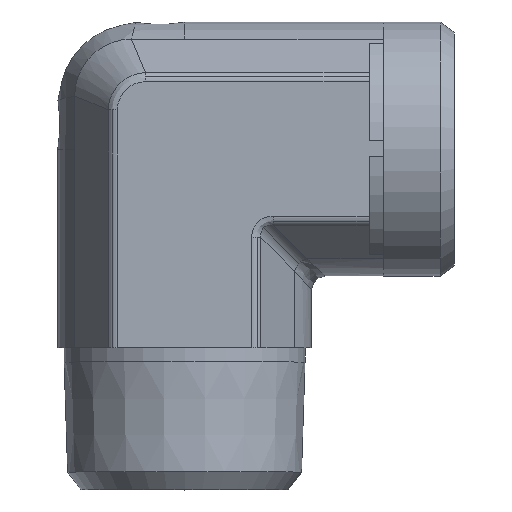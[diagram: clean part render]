
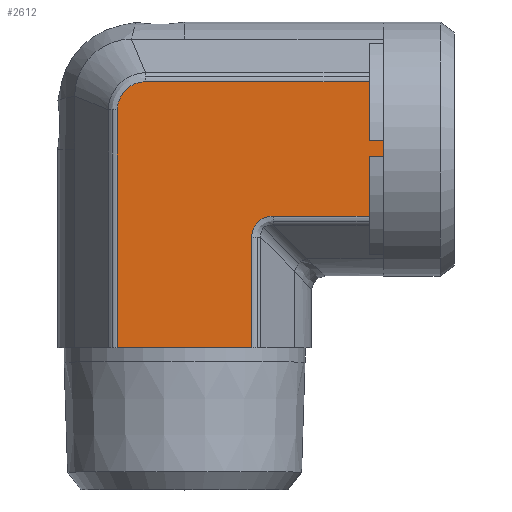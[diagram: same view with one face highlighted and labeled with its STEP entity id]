
A CAD part, top view. The second image highlights one B-rep face of the part: STEP entity #2612.
In plain terms, the highlighted planar face has unit normal (0, 0, 1) as drawn and (0, -1, 0) by its records, which use the part's own axes.
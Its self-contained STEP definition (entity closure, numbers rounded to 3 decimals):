
#361=CARTESIAN_POINT('',(7.985,-17.875,9.454));
#362=VERTEX_POINT('',#361);
#370=CARTESIAN_POINT('',(23.5,-17.875,9.454));
#371=VERTEX_POINT('',#370);
#372=CARTESIAN_POINT('',(7.985,-17.875,9.454));
#373=DIRECTION('',(1.0,0.0,0.0));
#374=VECTOR('',#373,15.515);
#375=LINE('',#372,#374);
#376=EDGE_CURVE('',#362,#371,#375,.T.);
#485=CARTESIAN_POINT('',(-13.954,-17.875,-5.501));
#486=VERTEX_POINT('',#485);
#494=CARTESIAN_POINT('',(-13.954,-17.875,26.0));
#495=VERTEX_POINT('',#494);
#496=CARTESIAN_POINT('',(-13.954,-17.875,-5.501));
#497=DIRECTION('',(0.0,0.0,1.0));
#498=VECTOR('',#497,31.501);
#499=LINE('',#496,#498);
#500=EDGE_CURVE('',#486,#495,#499,.T.);
#2034=CARTESIAN_POINT('',(4.954,-17.875,26.0));
#2035=VERTEX_POINT('',#2034);
#2036=CARTESIAN_POINT('',(-3.381,-17.875,26.0));
#2037=VERTEX_POINT('',#2036);
#2038=CARTESIAN_POINT('',(4.954,-17.875,26.0));
#2039=DIRECTION('',(-1.0,0.0,0.0));
#2040=VECTOR('',#2039,8.335);
#2041=LINE('',#2038,#2040);
#2042=EDGE_CURVE('',#2035,#2037,#2041,.T.);
#2093=CARTESIAN_POINT('',(-5.619,-17.875,26.0));
#2094=VERTEX_POINT('',#2093);
#2095=CARTESIAN_POINT('',(-5.619,-17.875,26.0));
#2096=DIRECTION('',(-1.0,0.0,0.0));
#2097=VECTOR('',#2096,8.335);
#2098=LINE('',#2095,#2097);
#2099=EDGE_CURVE('',#2094,#495,#2098,.T.);
#2198=CARTESIAN_POINT('',(-3.381,-17.875,28.0));
#2199=VERTEX_POINT('',#2198);
#2200=CARTESIAN_POINT('',(-3.381,-17.875,26.0));
#2201=DIRECTION('',(0.0,0.0,1.0));
#2202=VECTOR('',#2201,2.0);
#2203=LINE('',#2200,#2202);
#2204=EDGE_CURVE('',#2037,#2199,#2203,.T.);
#2239=CARTESIAN_POINT('',(-5.619,-17.875,28.0));
#2240=VERTEX_POINT('',#2239);
#2241=CARTESIAN_POINT('',(-5.619,-17.875,28.0));
#2242=DIRECTION('',(0.0,0.0,-1.0));
#2243=VECTOR('',#2242,2.0);
#2244=LINE('',#2241,#2243);
#2245=EDGE_CURVE('',#2240,#2094,#2244,.T.);
#2524=CARTESIAN_POINT('',(-4.5,-17.875,28.0));
#2525=VERTEX_POINT('',#2524);
#2526=CARTESIAN_POINT('',(-4.5,-17.875,28.0));
#2527=DIRECTION('',(-1.0,0.0,0.0));
#2528=VECTOR('',#2527,1.119);
#2529=LINE('',#2526,#2528);
#2530=EDGE_CURVE('',#2525,#2240,#2529,.T.);
#2548=CARTESIAN_POINT('',(-4.5,-17.875,-3.175));
#2549=DIRECTION('',(0.0,-1.0,0.0));
#2550=DIRECTION('',(0.0,0.0,-1.0));
#2551=AXIS2_PLACEMENT_3D('',#2548,#2549,#2550);
#2552=PLANE('',#2551);
#2553=ORIENTED_EDGE('',*,*,#2245,.T.);
#2554=ORIENTED_EDGE('',*,*,#2099,.T.);
#2555=ORIENTED_EDGE('',*,*,#500,.F.);
#2556=CARTESIAN_POINT('',(-10.001,-17.875,-9.454));
#2557=VERTEX_POINT('',#2556);
#2558=CARTESIAN_POINT('',(-13.954,-17.875,-5.501));
#2559=CARTESIAN_POINT('',(-13.954,-17.875,-5.759));
#2560=CARTESIAN_POINT('',(-13.928,-17.875,-6.018));
#2561=CARTESIAN_POINT('',(-13.795,-17.875,-6.68));
#2562=CARTESIAN_POINT('',(-13.65,-17.875,-7.07));
#2563=CARTESIAN_POINT('',(-13.121,-17.875,-8.011));
#2564=CARTESIAN_POINT('',(-12.65,-17.875,-8.503));
#2565=CARTESIAN_POINT('',(-11.461,-17.875,-9.245));
#2566=CARTESIAN_POINT('',(-10.732,-17.875,-9.454));
#2567=CARTESIAN_POINT('',(-10.001,-17.875,-9.454));
#2568=B_SPLINE_CURVE_WITH_KNOTS('',3,(#2558,#2559,#2560,#2561,#2562,#2563,#2564,#2565,#2566,#2567),.UNSPECIFIED.,.F.,.U.,(4,2,2,2,4),(-6.173,-5.402,-4.167,-2.191,0.0),.UNSPECIFIED.);
#2569=EDGE_CURVE('',#2557,#486,#2568,.F.);
#2570=ORIENTED_EDGE('',*,*,#2569,.F.);
#2571=CARTESIAN_POINT('',(23.5,-17.875,-9.454));
#2572=VERTEX_POINT('',#2571);
#2573=CARTESIAN_POINT('',(23.5,-17.875,-9.454));
#2574=DIRECTION('',(-1.0,0.0,0.0));
#2575=VECTOR('',#2574,33.501);
#2576=LINE('',#2573,#2575);
#2577=EDGE_CURVE('',#2572,#2557,#2576,.T.);
#2578=ORIENTED_EDGE('',*,*,#2577,.F.);
#2579=CARTESIAN_POINT('',(23.5,-17.875,-9.454));
#2580=DIRECTION('',(0.0,0.0,1.0));
#2581=VECTOR('',#2580,18.908);
#2582=LINE('',#2579,#2581);
#2583=EDGE_CURVE('',#2572,#371,#2582,.T.);
#2584=ORIENTED_EDGE('',*,*,#2583,.T.);
#2585=ORIENTED_EDGE('',*,*,#376,.F.);
#2586=CARTESIAN_POINT('',(4.954,-17.875,12.485));
#2587=VERTEX_POINT('',#2586);
#2588=CARTESIAN_POINT('',(8.996,-17.875,13.496));
#2589=DIRECTION('',(0.,-1.,0.));
#2590=DIRECTION('',(-0.707,0.,-0.707));
#2591=AXIS2_PLACEMENT_3D('',#2588,#2589,#2590);
#2592=ELLIPSE('',#2591,4.518,3.5);
#2593=EDGE_CURVE('',#2587,#362,#2592,.T.);
#2594=ORIENTED_EDGE('',*,*,#2593,.F.);
#2595=CARTESIAN_POINT('',(4.954,-17.875,26.0));
#2596=DIRECTION('',(0.0,0.0,-1.0));
#2597=VECTOR('',#2596,13.515);
#2598=LINE('',#2595,#2597);
#2599=EDGE_CURVE('',#2035,#2587,#2598,.T.);
#2600=ORIENTED_EDGE('',*,*,#2599,.F.);
#2601=ORIENTED_EDGE('',*,*,#2042,.T.);
#2602=ORIENTED_EDGE('',*,*,#2204,.T.);
#2603=CARTESIAN_POINT('',(-3.381,-17.875,28.0));
#2604=DIRECTION('',(-1.0,0.0,0.0));
#2605=VECTOR('',#2604,1.119);
#2606=LINE('',#2603,#2605);
#2607=EDGE_CURVE('',#2199,#2525,#2606,.T.);
#2608=ORIENTED_EDGE('',*,*,#2607,.T.);
#2609=ORIENTED_EDGE('',*,*,#2530,.T.);
#2610=EDGE_LOOP('',(#2553,#2554,#2555,#2570,#2578,#2584,#2585,#2594,#2600,#2601,#2602,#2608,#2609));
#2611=FACE_OUTER_BOUND('',#2610,.T.);
#2612=ADVANCED_FACE('',(#2611),#2552,.T.);
